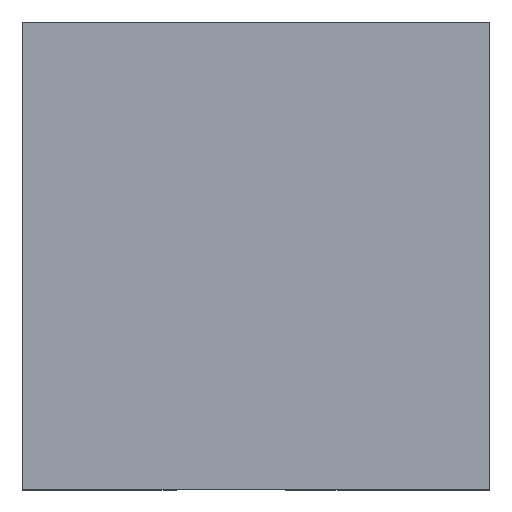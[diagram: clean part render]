
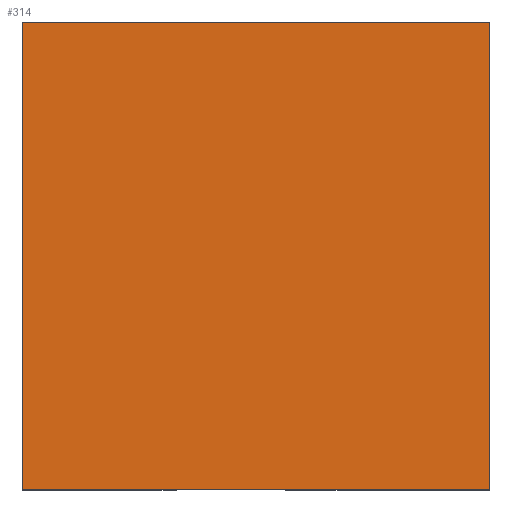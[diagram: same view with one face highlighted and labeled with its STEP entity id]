
A CAD part, top view. The second image highlights one B-rep face of the part: STEP entity #314.
In plain terms, the highlighted planar face has unit normal (0, 0, 1).
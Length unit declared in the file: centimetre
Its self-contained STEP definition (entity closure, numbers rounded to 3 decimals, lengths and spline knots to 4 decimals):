
#14 = VECTOR ( 'NONE', #420, 100. ) ;
#15 = DIRECTION ( 'NONE',  ( 0., -1., 0. ) ) ;
#22 = VECTOR ( 'NONE', #153, 100. ) ;
#26 = ORIENTED_EDGE ( 'NONE', *, *, #58, .T. ) ;
#53 = VECTOR ( 'NONE', #90, 100. ) ;
#58 = EDGE_CURVE ( 'NONE', #261, #373, #321, .T. ) ;
#90 = DIRECTION ( 'NONE',  ( 1., 0., 0. ) ) ;
#108 = EDGE_CURVE ( 'NONE', #335, #301, #327, .T. ) ;
#116 = CARTESIAN_POINT ( 'NONE',  ( 0., 1000., 1000. ) ) ;
#126 = ORIENTED_EDGE ( 'NONE', *, *, #108, .T. ) ;
#153 = DIRECTION ( 'NONE',  ( 0., 1., 0. ) ) ;
#156 = CARTESIAN_POINT ( 'NONE',  ( 1000., 1000., 1000. ) ) ;
#164 = EDGE_CURVE ( 'NONE', #301, #261, #187, .T. ) ;
#168 = FACE_OUTER_BOUND ( 'NONE', #268, .T. ) ;
#187 = LINE ( 'NONE', #156, #22 ) ;
#208 = DIRECTION ( 'NONE',  ( 1., 0., 0. ) ) ;
#243 = PLANE ( 'NONE',  #246 ) ;
#246 = AXIS2_PLACEMENT_3D ( 'NONE', #380, #306, #208 ) ;
#257 = LINE ( 'NONE', #320, #328 ) ;
#261 = VERTEX_POINT ( 'NONE', #304 ) ;
#268 = EDGE_LOOP ( 'NONE', ( #436, #126, #366, #26 ) ) ;
#286 = CARTESIAN_POINT ( 'NONE',  ( 0., 1000., 1000. ) ) ;
#301 = VERTEX_POINT ( 'NONE', #308 ) ;
#304 = CARTESIAN_POINT ( 'NONE',  ( 1000., 1000., 1000. ) ) ;
#306 = DIRECTION ( 'NONE',  ( 0., 0., 1. ) ) ;
#308 = CARTESIAN_POINT ( 'NONE',  ( 1000., 0., 1000. ) ) ;
#314 = ADVANCED_FACE ( 'NONE', ( #168 ), #243, .T. ) ;
#320 = CARTESIAN_POINT ( 'NONE',  ( 0., 1000., 1000. ) ) ;
#321 = LINE ( 'NONE', #286, #14 ) ;
#327 = LINE ( 'NONE', #404, #53 ) ;
#328 = VECTOR ( 'NONE', #15, 100. ) ;
#335 = VERTEX_POINT ( 'NONE', #448 ) ;
#366 = ORIENTED_EDGE ( 'NONE', *, *, #164, .T. ) ;
#373 = VERTEX_POINT ( 'NONE', #116 ) ;
#380 = CARTESIAN_POINT ( 'NONE',  ( 0., 0., 1000. ) ) ;
#404 = CARTESIAN_POINT ( 'NONE',  ( 0., 0., 1000. ) ) ;
#408 = EDGE_CURVE ( 'NONE', #373, #335, #257, .T. ) ;
#420 = DIRECTION ( 'NONE',  ( -1., 0., 0. ) ) ;
#436 = ORIENTED_EDGE ( 'NONE', *, *, #408, .T. ) ;
#448 = CARTESIAN_POINT ( 'NONE',  ( 0., 0., 1000. ) ) ;
